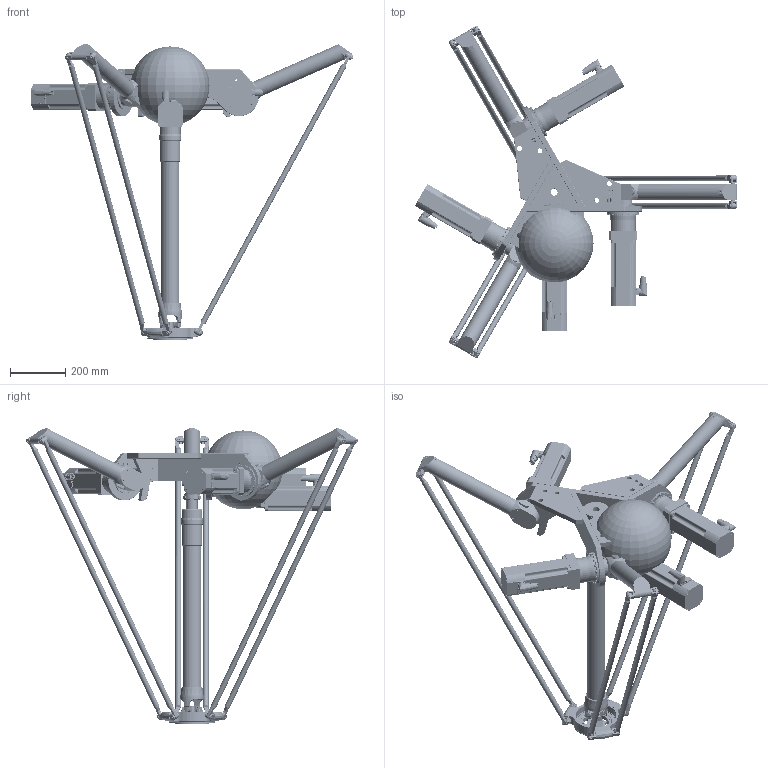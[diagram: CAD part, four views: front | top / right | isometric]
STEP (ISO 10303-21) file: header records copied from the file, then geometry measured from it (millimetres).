
FILE_DESCRIPTION (( 'STEP AP214' ), '1' );
FILE_NAME ('DR4140C-AX006.STEP', '2020-04-20T05:02:31', ( '' ), ( '' ), 'SwSTEP 2.0', 'SolidWorks 2017', '' );
FILE_SCHEMA (( 'AUTOMOTIVE_DESIGN' ));
Length unit declared in the file: millimetre
Products named in the file (3): DR4140C-AX006_ohne_Motor; DR4140C-AX006; 8LSA37_DB060S200_3_8
Assembly tree (5 placements, depth 2):
  DR4140C-AX006
    DR4140C-AX006_ohne_Motor
    8LSA37_DB060S200_3_8  x4
Bounding box: 1168.44 x 1203.37 x 1071.38 mm (x, y, z)
Volume: 34920632.9 mm3; surface area: 3247169.2 mm2
Topology: 36 solids, 67 shells, 5270 faces, 12500 edges, 7928 vertices
Faces by surface type: plane 2761, cylinder 1532, cone 610, bspline 365, torus 2
Full cylindrical faces by diameter (mm): 1 x16, 3 x2, 3.3 x4, 3.459 x12, 4 x1, 4.134 x12, 4.3 x4, 4.5 x16, 4.917 x11, 5 x48, 5.5 x16, 6 x36, 6.647 x21, 7 x28, 7.318 x16, 7.5 x64, 8 x40, 8.5 x96, 10 x49, 11 x1, 11.4 x1, 12 x26, 14 x4, 15 x4, 15.4 x1, 16 x25, 17.5 x9, 18 x32, 19 x3, 19.8 x4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
Entity records: 179154 total; most frequent: CARTESIAN_POINT 63336, DIRECTION 15091, ORIENTED_EDGE 14480, EDGE_CURVE 7240, AXIS2_PLACEMENT_3D 5676, EDGE_LOOP 5069, VERTEX_POINT 4957, FACE_OUTER_BOUND 4308
